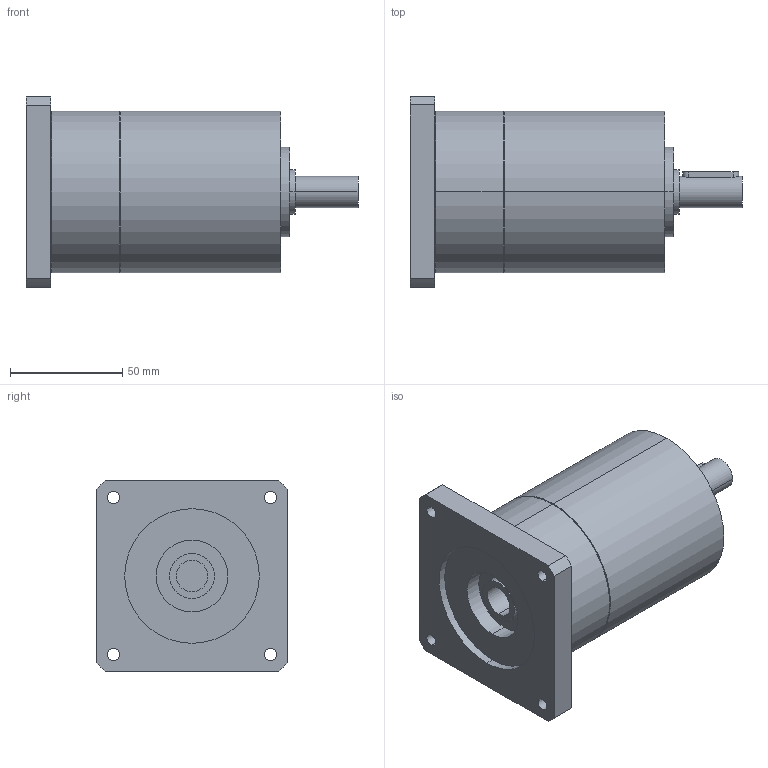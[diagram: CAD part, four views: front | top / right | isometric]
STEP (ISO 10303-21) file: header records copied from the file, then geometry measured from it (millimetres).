
FILE_DESCRIPTION(('CoCreate Modeling STEP Export'),'2;1');
FILE_NAME('GPT75_ig-9-12-16-20-25-28-35-40-50-70-100_14_B14T_14_P33.stp','2014-08-27T13:17:29',(''),(''),'CoCreate Modeling STEP processor for AP214 (Solid Model)','CoCreate Modeling 16.00C 25-Feb-2009 (C) Parametric Technology GmbH','');
FILE_SCHEMA(('AUTOMOTIVE_DESIGN { 1 0 10303 214 1 1 1 1 }'));
Length unit declared in the file: millimetre
Products named in the file (2): GPT75_ig-9-12-16-20-25-28-35-40-50-70-100_14_B14T_14_P33
Assembly tree (1 placements, depth 2):
  GPT75_ig-9-12-16-20-25-28-35-40-50-70-100_14_B14T_14_P33
    GPT75_ig-9-12-16-20-25-28-35-40-50-70-100_14_B14T_14_P33
Bounding box: 148 x 85 x 85 mm (x, y, z)
Volume: 485003 mm3; surface area: 47989.1 mm2
Topology: 1 solids, 1 shells, 69 faces, 166 edges, 113 vertices
Faces by surface type: cylinder 42, plane 23, cone 4
Entity records: 2161 total; most frequent: CARTESIAN_POINT 664, ORIENTED_EDGE 332, DIRECTION 262, EDGE_CURVE 166, VERTEX_POINT 113, AXIS2_PLACEMENT_3D 99, EDGE_LOOP 91, FACE_OUTER_BOUND 69
